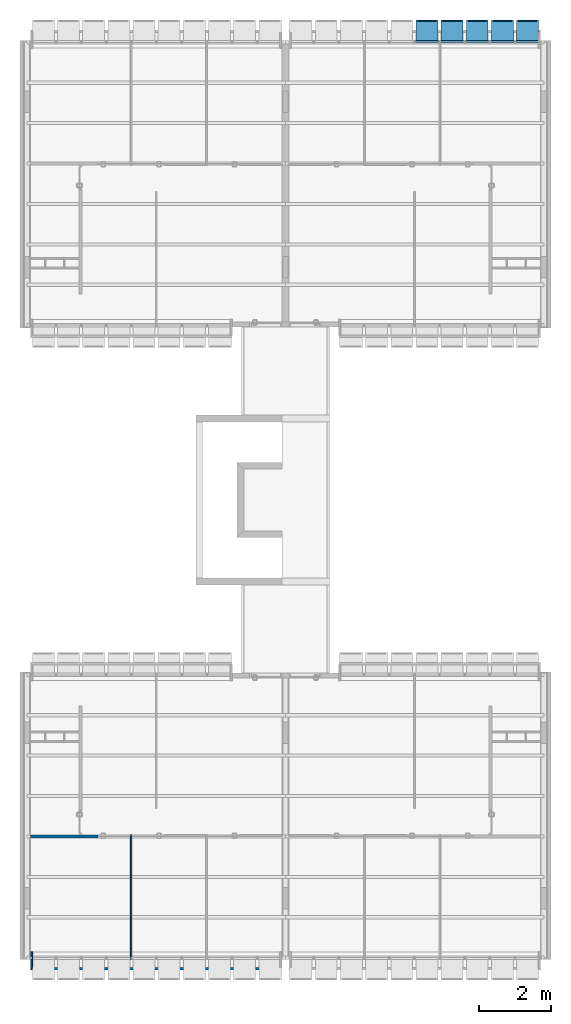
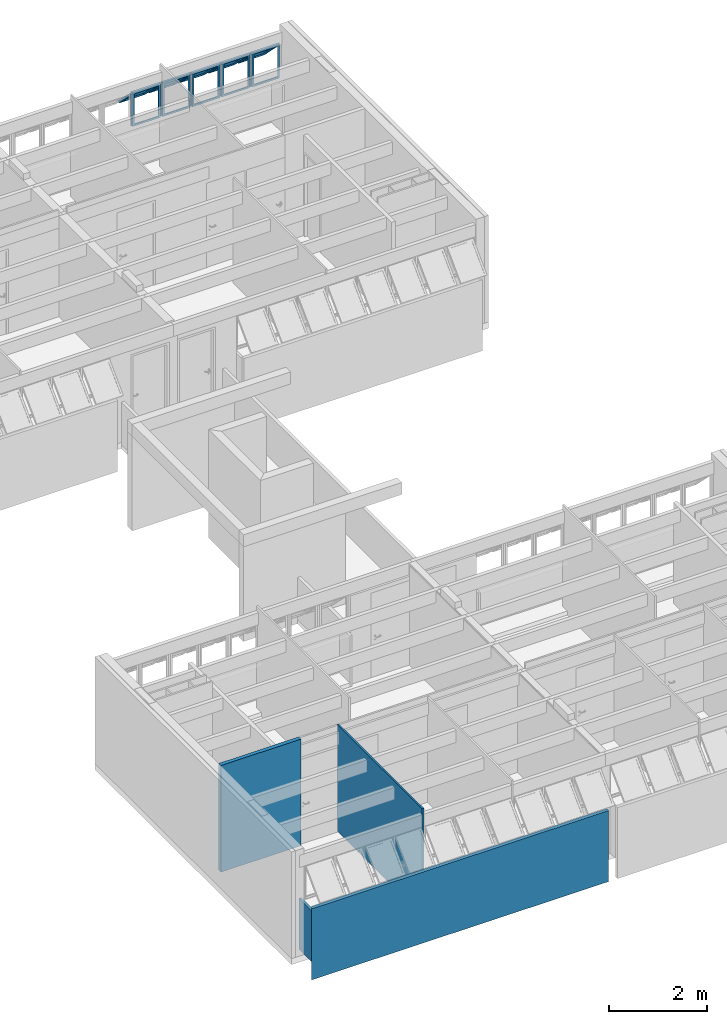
# One storey, part 17 of 40: 5 plates, 4 walls, 1 element without a shape of its own.
"""IFC4 building model written with IfcOpenShell, lengths in millimetres."""

from ifc_helpers import new_model, entity, si_unit, converted_unit, derived_unit, direction, frame, origin_with_axes, place, context, subcontext, project, spatial, line, indexed_curve, outline, extrude, polygons, source, transform, mapped, material, layer, layer_set, layer_usage, constituent, constituent_set, type_object, element, aggregate, save


model = new_model("IFC4")

# Units and contexts
model_context = context("Model", 3, precision=0.01, world=origin_with_axes(), true_north=direction((0.0, 1.0)))
body_context = subcontext(model_context, "Body", "Model", "MODEL_VIEW")
ifc_project = project(units=[si_unit("LENGTHUNIT", "METRE", prefix="MILLI"), si_unit("AREAUNIT", "SQUARE_METRE"), si_unit("VOLUMEUNIT", "CUBIC_METRE"), converted_unit("PLANEANGLEUNIT", "DEGREE", entity("IfcPlaneAngleMeasure", 0.0174532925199), si_unit("PLANEANGLEUNIT", "RADIAN"), dimensions=[0, 0, 0, 0, 0, 0, 0]), converted_unit("TIMEUNIT", "Year", entity("IfcTimeMeasure", 31556926.0), si_unit("TIMEUNIT", "SECOND"), dimensions=[0, 0, 1, 0, 0, 0, 0]), si_unit("MASSUNIT", "GRAM", prefix="KILO"), si_unit("THERMODYNAMICTEMPERATUREUNIT", "DEGREE_CELSIUS"), si_unit("LUMINOUSINTENSITYUNIT", "LUMEN"), si_unit("ENERGYUNIT", "JOULE", prefix="MEGA"), derived_unit("THERMALCONDUCTANCEUNIT", [(si_unit("POWERUNIT", "WATT"), 1), (si_unit("LENGTHUNIT", "METRE"), -1), (si_unit("THERMODYNAMICTEMPERATUREUNIT", "KELVIN"), -1)]), derived_unit("SPECIFICHEATCAPACITYUNIT", [(si_unit("ENERGYUNIT", "JOULE"), 1), (si_unit("MASSUNIT", "GRAM", prefix="KILO"), -1), (si_unit("THERMODYNAMICTEMPERATUREUNIT", "KELVIN"), -1)]), derived_unit("MASSDENSITYUNIT", [(si_unit("MASSUNIT", "GRAM", prefix="KILO"), 1), (si_unit("VOLUMEUNIT", "CUBIC_METRE"), -1)])], contexts=[model_context])

# Site, building, storey
site_placement = place(None, origin_with_axes())
site = spatial("IfcSite", under=ifc_project, at=site_placement, Name="Local", CompositionType="ELEMENT")
building_placement = place(site_placement, origin_with_axes())
building = spatial("IfcBuilding", under=site, at=building_placement, Name="Construção", CompositionType="ELEMENT")
storey_placement = place(building_placement, frame((0.0, 0.0, 5300.0), z_axis=(0.0, 0.0, 1.0), x_axis=(1.0, 0.0, 0.0)))
storey = spatial("IfcBuildingStorey", under=building, at=storey_placement, Name="Terceiro Pavimento", CompositionType="ELEMENT", Elevation=5300.0)

# Window, plates
window_type = type_object("IfcWindowType", Name="Tipo de Parede Cortina", PartitioningType="NOTDEFINED", PredefinedType="NOTDEFINED")
window_placement = place(storey_placement, frame((8520.0, 25844.9790225, 1355.02054151), z_axis=(0.0, 0.0, 1.0), x_axis=(1.0, 0.0, 0.0)))
window = element("IfcWindow", 1, at=window_placement, inside=storey, type_object=window_type, Name="APTO12-JANELA-001", PredefinedType="NOTDEFINED")
ifc_material_1 = material(Name="Alumínio")
ifc_constituent_1 = constituent(ifc_material_1, Name="Alumínio")
ifc_material_2 = material(Name="Vidro")
ifc_constituent_2 = constituent(ifc_material_2, Name="Vidro")
ifc_constituent_set_1 = constituent_set(constituents=[ifc_constituent_1, ifc_constituent_2])
plate_type = type_object("IfcPlateType", Name="Painel Principal 690 x 845 x 20", PredefinedType="CURTAIN_PANEL")
shared_shape_1 = source(origin_with_axes(), body_context, "Body", "Tessellation", [
    polygons([(25.0000036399, 0.0, -40.0), (674.999997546, 0.0, -40.0), (674.999997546, 0.0, -35.0), (25.0000036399, 0.0, -35.0), (70.0000036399, 45.0, -40.0), (629.999997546, 45.0, -40.0), (629.999997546, 45.0, -35.0), (70.0000036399, 45.0, -35.0)], [[[1, 2, 3, 4]], [[1, 5, 6, 2]], [[2, 6, 7, 3]], [[4, 3, 7, 8]], [[5, 1, 4, 8]], [[6, 5, 8, 7]]], closed=True),
    polygons([(674.999997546, 0.0, -40.0), (674.999997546, 844.999891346, -40.0), (674.999997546, 844.999891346, -35.0), (674.999997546, 0.0, -35.0), (629.999997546, 45.0, -40.0), (629.999997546, 799.999891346, -40.0), (629.999997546, 799.999891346, -35.0), (629.999997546, 45.0, -35.0)], [[[1, 2, 3, 4]], [[1, 5, 6, 2]], [[2, 6, 7, 3]], [[4, 3, 7, 8]], [[5, 1, 4, 8]], [[6, 5, 8, 7]]], closed=True),
    polygons([(25.0000036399, 844.999891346, -40.0), (70.0000036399, 799.999891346, -40.0), (70.0000036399, 799.999891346, -35.0), (25.0000036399, 844.999891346, -35.0), (674.999997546, 844.999891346, -40.0), (629.999997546, 799.999891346, -40.0), (629.999997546, 799.999891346, -35.0), (674.999997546, 844.999891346, -35.0)], [[[1, 2, 3, 4]], [[1, 5, 6, 2]], [[2, 6, 7, 3]], [[4, 3, 7, 8]], [[5, 1, 4, 8]], [[6, 5, 8, 7]]], closed=True),
    polygons([(25.0000036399, 0.0, -40.0), (70.0000036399, 45.0, -40.0), (70.0000036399, 45.0, -35.0), (25.0000036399, 0.0, -35.0), (25.0000036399, 844.999891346, -40.0), (70.0000036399, 799.999891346, -40.0), (70.0000036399, 799.999891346, -35.0), (25.0000036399, 844.999891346, -35.0)], [[[1, 2, 3, 4]], [[1, 5, 6, 2]], [[2, 6, 7, 3]], [[4, 3, 7, 8]], [[5, 1, 4, 8]], [[6, 5, 8, 7]]], closed=True),
    polygons([(25.0000036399, 0.0, -35.0), (674.999997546, 0.0, -35.0), (674.999997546, 0.0, 15.0), (25.0000036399, 0.0, 15.0), (45.0000036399, 20.0, -35.0), (654.999997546, 20.0, -35.0), (654.999997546, 20.0, 15.0), (45.0000036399, 20.0, 15.0)], [[[1, 2, 3, 4]], [[1, 5, 6, 2]], [[2, 6, 7, 3]], [[4, 3, 7, 8]], [[5, 1, 4, 8]], [[6, 5, 8, 7]]], closed=True),
    polygons([(674.999997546, 0.0, -35.0), (674.999997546, 844.999891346, -35.0), (674.999997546, 844.999891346, 15.0), (674.999997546, 0.0, 15.0), (654.999997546, 20.0, -35.0), (654.999997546, 824.999891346, -35.0), (654.999997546, 824.999891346, 15.0), (654.999997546, 20.0, 15.0)], [[[1, 2, 3, 4]], [[1, 5, 6, 2]], [[2, 6, 7, 3]], [[4, 3, 7, 8]], [[5, 1, 4, 8]], [[6, 5, 8, 7]]], closed=True),
    polygons([(25.0000036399, 844.999891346, -35.0), (45.0000036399, 824.999891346, -35.0), (45.0000036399, 824.999891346, 15.0), (25.0000036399, 844.999891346, 15.0), (674.999997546, 844.999891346, -35.0), (654.999997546, 824.999891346, -35.0), (654.999997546, 824.999891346, 15.0), (674.999997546, 844.999891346, 15.0)], [[[1, 2, 3, 4]], [[1, 5, 6, 2]], [[2, 6, 7, 3]], [[4, 3, 7, 8]], [[5, 1, 4, 8]], [[6, 5, 8, 7]]], closed=True),
    polygons([(25.0000036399, 0.0, -35.0), (45.0000036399, 20.0, -35.0), (45.0000036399, 20.0, 15.0), (25.0000036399, 0.0, 15.0), (25.0000036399, 844.999891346, -35.0), (45.0000036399, 824.999891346, -35.0), (45.0000036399, 824.999891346, 15.0), (25.0000036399, 844.999891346, 15.0)], [[[1, 2, 3, 4]], [[1, 5, 6, 2]], [[2, 6, 7, 3]], [[4, 3, 7, 8]], [[5, 1, 4, 8]], [[6, 5, 8, 7]]], closed=True),
    polygons([(694.999995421, 0.0, -10.0), (694.999995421, 844.999891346, -10.0), (694.999995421, 844.999891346, 10.0), (694.999995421, 0.0, 10.0), (674.999997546, 0.0, -10.0), (674.999997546, 844.999891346, -10.0), (674.999997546, 844.999891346, 10.0), (674.999997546, 0.0, 10.0)], [[[1, 2, 3, 4]], [[1, 5, 6, 2]], [[2, 6, 7, 3]], [[4, 3, 7, 8]], [[5, 1, 4, 8]], [[6, 5, 8, 7]]], closed=True),
    polygons([(5.00000576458, 844.999891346, -10.0), (5.00000576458, 0.0, -10.0), (5.00000576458, 0.0, 10.0), (5.00000576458, 844.999891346, 10.0), (25.0000036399, 844.999891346, -10.0), (25.0000036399, 0.0, -10.0), (25.0000036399, 0.0, 10.0), (25.0000036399, 844.999891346, 10.0)], [[[1, 2, 3, 4]], [[1, 5, 6, 2]], [[2, 6, 7, 3]], [[4, 3, 7, 8]], [[5, 1, 4, 8]], [[6, 5, 8, 7]]], closed=True),
    polygons([(90.0000036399, 252.243475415, 517.045737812), (90.0000036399, 757.824747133, 11.4644660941), (90.0000036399, 796.715620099, 50.3553390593), (90.0000036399, 291.13434838, 555.936610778), (45.0000036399, 220.423670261, 548.865542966), (45.0000036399, 789.644552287, -20.3553390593), (45.0000036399, 828.535425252, 18.5355339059), (45.0000036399, 259.314543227, 587.756415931)], [[[1, 2, 3, 4]], [[1, 5, 6, 2]], [[2, 6, 7, 3]], [[4, 3, 7, 8]], [[5, 1, 4, 8]], [[6, 5, 8, 7]]], closed=True),
    polygons([(654.999997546, 220.423670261, 548.865542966), (654.999997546, 789.644552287, -20.3553390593), (654.999997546, 828.535425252, 18.5355339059), (654.999997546, 259.314543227, 587.756415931), (609.999997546, 252.243475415, 517.045737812), (609.999997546, 757.824747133, 11.4644660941), (609.999997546, 796.715620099, 50.3553390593), (609.999997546, 291.13434838, 555.936610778)], [[[1, 2, 3, 4]], [[1, 5, 6, 2]], [[2, 6, 7, 3]], [[4, 3, 7, 8]], [[5, 1, 4, 8]], [[6, 5, 8, 7]]], closed=True),
    polygons([(654.999997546, 220.423670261, 548.865542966), (609.999997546, 252.243475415, 517.045737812), (609.999997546, 291.13434838, 555.936610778), (654.999997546, 259.314543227, 587.756415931), (45.0000036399, 220.423670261, 548.865542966), (90.0000036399, 252.243475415, 517.045737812), (90.0000036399, 291.13434838, 555.936610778), (45.0000036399, 259.314543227, 587.756415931)], [[[1, 2, 3, 4]], [[1, 5, 6, 2]], [[2, 6, 7, 3]], [[4, 3, 7, 8]], [[5, 1, 4, 8]], [[6, 5, 8, 7]]], closed=True),
    polygons([(45.0000036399, 789.644552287, -20.3553390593), (90.0000036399, 757.824747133, 11.4644660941), (90.0000036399, 796.715620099, 50.3553390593), (45.0000036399, 828.535425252, 18.5355339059), (654.999997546, 789.644552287, -20.3553390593), (609.999997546, 757.824747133, 11.4644660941), (609.999997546, 796.715620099, 50.3553390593), (654.999997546, 828.535425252, 18.5355339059)], [[[1, 2, 3, 4]], [[1, 5, 6, 2]], [[2, 6, 7, 3]], [[4, 3, 7, 8]], [[5, 1, 4, 8]], [[6, 5, 8, 7]]], closed=True),
    polygons([(90.0000036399, 272.749572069, 537.551834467), (609.999997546, 272.749572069, 537.551834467), (609.999997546, 284.063280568, 548.865542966), (90.0000036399, 284.063280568, 548.865542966), (90.0000036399, 778.330843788, 31.9705627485), (609.999997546, 778.330843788, 31.9705627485), (609.999997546, 789.644552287, 43.2842712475), (90.0000036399, 789.644552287, 43.2842712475)], [[[1, 2, 3, 4]], [[1, 5, 6, 2]], [[2, 6, 7, 3]], [[4, 3, 7, 8]], [[5, 1, 4, 8]], [[6, 5, 8, 7]]], closed=True),
])
plate_1_placement = place(window_placement, frame((3500.0, 0.0, 422.499945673), z_axis=(0.0, 0.0, 1.0), x_axis=(1.0, 0.0, 0.0)))
plate_1 = element("IfcPlate", 2, at=plate_1_placement, type_object=plate_type, material=ifc_constituent_set_1, Name="APTO12-Painel-Prin-013", PredefinedType="CURTAIN_PANEL", context=body_context, shape_type="MappedRepresentation", body=[
    mapped(shared_shape_1, transform((350.0, 0.0, -422.499945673), x_axis=(-1.0, 0.0, 0.0), y_axis=(0.0, 0.0, 1.0), z_axis=(0.0, 1.0, 0.0))),
])
ifc_constituent_3 = constituent(ifc_material_1, Name="Alumínio")
ifc_constituent_4 = constituent(ifc_material_2, Name="Vidro")
ifc_constituent_set_2 = constituent_set(constituents=[ifc_constituent_3, ifc_constituent_4])
shared_shape_2 = source(origin_with_axes(), body_context, "Body", "Tessellation", [
    polygons([(25.0000036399, 0.0, -40.0), (674.999997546, 0.0, -40.0), (674.999997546, 0.0, -35.0), (25.0000036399, 0.0, -35.0), (70.0000036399, 45.0, -40.0), (629.999997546, 45.0, -40.0), (629.999997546, 45.0, -35.0), (70.0000036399, 45.0, -35.0)], [[[1, 2, 3, 4]], [[1, 5, 6, 2]], [[2, 6, 7, 3]], [[4, 3, 7, 8]], [[5, 1, 4, 8]], [[6, 5, 8, 7]]], closed=True),
    polygons([(674.999997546, 0.0, -40.0), (674.999997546, 844.999891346, -40.0), (674.999997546, 844.999891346, -35.0), (674.999997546, 0.0, -35.0), (629.999997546, 45.0, -40.0), (629.999997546, 799.999891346, -40.0), (629.999997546, 799.999891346, -35.0), (629.999997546, 45.0, -35.0)], [[[1, 2, 3, 4]], [[1, 5, 6, 2]], [[2, 6, 7, 3]], [[4, 3, 7, 8]], [[5, 1, 4, 8]], [[6, 5, 8, 7]]], closed=True),
    polygons([(25.0000036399, 844.999891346, -40.0), (70.0000036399, 799.999891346, -40.0), (70.0000036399, 799.999891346, -35.0), (25.0000036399, 844.999891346, -35.0), (674.999997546, 844.999891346, -40.0), (629.999997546, 799.999891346, -40.0), (629.999997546, 799.999891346, -35.0), (674.999997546, 844.999891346, -35.0)], [[[1, 2, 3, 4]], [[1, 5, 6, 2]], [[2, 6, 7, 3]], [[4, 3, 7, 8]], [[5, 1, 4, 8]], [[6, 5, 8, 7]]], closed=True),
    polygons([(25.0000036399, 0.0, -40.0), (70.0000036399, 45.0, -40.0), (70.0000036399, 45.0, -35.0), (25.0000036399, 0.0, -35.0), (25.0000036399, 844.999891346, -40.0), (70.0000036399, 799.999891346, -40.0), (70.0000036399, 799.999891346, -35.0), (25.0000036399, 844.999891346, -35.0)], [[[1, 2, 3, 4]], [[1, 5, 6, 2]], [[2, 6, 7, 3]], [[4, 3, 7, 8]], [[5, 1, 4, 8]], [[6, 5, 8, 7]]], closed=True),
    polygons([(25.0000036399, 0.0, -35.0), (674.999997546, 0.0, -35.0), (674.999997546, 0.0, 15.0), (25.0000036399, 0.0, 15.0), (45.0000036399, 20.0, -35.0), (654.999997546, 20.0, -35.0), (654.999997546, 20.0, 15.0), (45.0000036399, 20.0, 15.0)], [[[1, 2, 3, 4]], [[1, 5, 6, 2]], [[2, 6, 7, 3]], [[4, 3, 7, 8]], [[5, 1, 4, 8]], [[6, 5, 8, 7]]], closed=True),
    polygons([(674.999997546, 0.0, -35.0), (674.999997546, 844.999891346, -35.0), (674.999997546, 844.999891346, 15.0), (674.999997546, 0.0, 15.0), (654.999997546, 20.0, -35.0), (654.999997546, 824.999891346, -35.0), (654.999997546, 824.999891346, 15.0), (654.999997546, 20.0, 15.0)], [[[1, 2, 3, 4]], [[1, 5, 6, 2]], [[2, 6, 7, 3]], [[4, 3, 7, 8]], [[5, 1, 4, 8]], [[6, 5, 8, 7]]], closed=True),
    polygons([(25.0000036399, 844.999891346, -35.0), (45.0000036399, 824.999891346, -35.0), (45.0000036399, 824.999891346, 15.0), (25.0000036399, 844.999891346, 15.0), (674.999997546, 844.999891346, -35.0), (654.999997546, 824.999891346, -35.0), (654.999997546, 824.999891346, 15.0), (674.999997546, 844.999891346, 15.0)], [[[1, 2, 3, 4]], [[1, 5, 6, 2]], [[2, 6, 7, 3]], [[4, 3, 7, 8]], [[5, 1, 4, 8]], [[6, 5, 8, 7]]], closed=True),
    polygons([(25.0000036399, 0.0, -35.0), (45.0000036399, 20.0, -35.0), (45.0000036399, 20.0, 15.0), (25.0000036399, 0.0, 15.0), (25.0000036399, 844.999891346, -35.0), (45.0000036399, 824.999891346, -35.0), (45.0000036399, 824.999891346, 15.0), (25.0000036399, 844.999891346, 15.0)], [[[1, 2, 3, 4]], [[1, 5, 6, 2]], [[2, 6, 7, 3]], [[4, 3, 7, 8]], [[5, 1, 4, 8]], [[6, 5, 8, 7]]], closed=True),
    polygons([(694.999995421, 0.0, -10.0), (694.999995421, 844.999891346, -10.0), (694.999995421, 844.999891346, 10.0), (694.999995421, 0.0, 10.0), (674.999997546, 0.0, -10.0), (674.999997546, 844.999891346, -10.0), (674.999997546, 844.999891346, 10.0), (674.999997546, 0.0, 10.0)], [[[1, 2, 3, 4]], [[1, 5, 6, 2]], [[2, 6, 7, 3]], [[4, 3, 7, 8]], [[5, 1, 4, 8]], [[6, 5, 8, 7]]], closed=True),
    polygons([(5.00000576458, 844.999891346, -10.0), (5.00000576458, 0.0, -10.0), (5.00000576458, 0.0, 10.0), (5.00000576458, 844.999891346, 10.0), (25.0000036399, 844.999891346, -10.0), (25.0000036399, 0.0, -10.0), (25.0000036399, 0.0, 10.0), (25.0000036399, 844.999891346, 10.0)], [[[1, 2, 3, 4]], [[1, 5, 6, 2]], [[2, 6, 7, 3]], [[4, 3, 7, 8]], [[5, 1, 4, 8]], [[6, 5, 8, 7]]], closed=True),
    polygons([(90.0000036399, 252.243475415, 517.045737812), (90.0000036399, 757.824747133, 11.4644660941), (90.0000036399, 796.715620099, 50.3553390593), (90.0000036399, 291.13434838, 555.936610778), (45.0000036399, 220.423670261, 548.865542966), (45.0000036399, 789.644552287, -20.3553390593), (45.0000036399, 828.535425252, 18.5355339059), (45.0000036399, 259.314543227, 587.756415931)], [[[1, 2, 3, 4]], [[1, 5, 6, 2]], [[2, 6, 7, 3]], [[4, 3, 7, 8]], [[5, 1, 4, 8]], [[6, 5, 8, 7]]], closed=True),
    polygons([(654.999997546, 220.423670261, 548.865542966), (654.999997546, 789.644552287, -20.3553390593), (654.999997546, 828.535425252, 18.5355339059), (654.999997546, 259.314543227, 587.756415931), (609.999997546, 252.243475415, 517.045737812), (609.999997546, 757.824747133, 11.4644660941), (609.999997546, 796.715620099, 50.3553390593), (609.999997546, 291.13434838, 555.936610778)], [[[1, 2, 3, 4]], [[1, 5, 6, 2]], [[2, 6, 7, 3]], [[4, 3, 7, 8]], [[5, 1, 4, 8]], [[6, 5, 8, 7]]], closed=True),
    polygons([(654.999997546, 220.423670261, 548.865542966), (609.999997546, 252.243475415, 517.045737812), (609.999997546, 291.13434838, 555.936610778), (654.999997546, 259.314543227, 587.756415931), (45.0000036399, 220.423670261, 548.865542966), (90.0000036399, 252.243475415, 517.045737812), (90.0000036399, 291.13434838, 555.936610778), (45.0000036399, 259.314543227, 587.756415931)], [[[1, 2, 3, 4]], [[1, 5, 6, 2]], [[2, 6, 7, 3]], [[4, 3, 7, 8]], [[5, 1, 4, 8]], [[6, 5, 8, 7]]], closed=True),
    polygons([(45.0000036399, 789.644552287, -20.3553390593), (90.0000036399, 757.824747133, 11.4644660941), (90.0000036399, 796.715620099, 50.3553390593), (45.0000036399, 828.535425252, 18.5355339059), (654.999997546, 789.644552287, -20.3553390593), (609.999997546, 757.824747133, 11.4644660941), (609.999997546, 796.715620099, 50.3553390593), (654.999997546, 828.535425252, 18.5355339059)], [[[1, 2, 3, 4]], [[1, 5, 6, 2]], [[2, 6, 7, 3]], [[4, 3, 7, 8]], [[5, 1, 4, 8]], [[6, 5, 8, 7]]], closed=True),
    polygons([(90.0000036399, 272.749572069, 537.551834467), (609.999997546, 272.749572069, 537.551834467), (609.999997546, 284.063280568, 548.865542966), (90.0000036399, 284.063280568, 548.865542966), (90.0000036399, 778.330843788, 31.9705627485), (609.999997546, 778.330843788, 31.9705627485), (609.999997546, 789.644552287, 43.2842712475), (90.0000036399, 789.644552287, 43.2842712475)], [[[1, 2, 3, 4]], [[1, 5, 6, 2]], [[2, 6, 7, 3]], [[4, 3, 7, 8]], [[5, 1, 4, 8]], [[6, 5, 8, 7]]], closed=True),
])
plate_2_placement = place(window_placement, frame((5600.0, 0.0, 422.499945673), z_axis=(0.0, 0.0, 1.0), x_axis=(1.0, 0.0, 0.0)))
plate_2 = element("IfcPlate", 3, at=plate_2_placement, type_object=plate_type, material=ifc_constituent_set_2, Name="APTO12-Painel-Prin-013", PredefinedType="CURTAIN_PANEL", context=body_context, shape_type="MappedRepresentation", body=[
    mapped(shared_shape_2, transform((350.0, 0.0, -422.499945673), x_axis=(-1.0, 0.0, 0.0), y_axis=(0.0, 0.0, 1.0), z_axis=(0.0, 1.0, 0.0))),
])
ifc_constituent_5 = constituent(ifc_material_1, Name="Alumínio")
ifc_constituent_6 = constituent(ifc_material_2, Name="Vidro")
ifc_constituent_set_3 = constituent_set(constituents=[ifc_constituent_5, ifc_constituent_6])
plate_3_placement = place(window_placement, frame((4900.0, 0.0, 422.499945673), z_axis=(0.0, 0.0, 1.0), x_axis=(1.0, 0.0, 0.0)))
plate_3 = element("IfcPlate", 4, at=plate_3_placement, type_object=plate_type, material=ifc_constituent_set_3, Name="APTO12-Painel-Prin-013", PredefinedType="CURTAIN_PANEL", context=body_context, shape_type="MappedRepresentation", body=[
    mapped(shared_shape_2, transform((350.0, 0.0, -422.499945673), x_axis=(-1.0, 0.0, 0.0), y_axis=(0.0, 0.0, 1.0), z_axis=(0.0, 1.0, 0.0))),
])
ifc_constituent_7 = constituent(ifc_material_1, Name="Alumínio")
ifc_constituent_8 = constituent(ifc_material_2, Name="Vidro")
ifc_constituent_set_4 = constituent_set(constituents=[ifc_constituent_7, ifc_constituent_8])
shared_shape_3 = source(origin_with_axes(), body_context, "Body", "Tessellation", [
    polygons([(25.0000036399, 0.0, -40.0), (674.999997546, 0.0, -40.0), (674.999997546, 0.0, -35.0), (25.0000036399, 0.0, -35.0), (70.0000036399, 45.0, -40.0), (629.999997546, 45.0, -40.0), (629.999997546, 45.0, -35.0), (70.0000036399, 45.0, -35.0)], [[[1, 2, 3, 4]], [[1, 5, 6, 2]], [[2, 6, 7, 3]], [[4, 3, 7, 8]], [[5, 1, 4, 8]], [[6, 5, 8, 7]]], closed=True),
    polygons([(674.999997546, 0.0, -40.0), (674.999997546, 844.999891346, -40.0), (674.999997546, 844.999891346, -35.0), (674.999997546, 0.0, -35.0), (629.999997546, 45.0, -40.0), (629.999997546, 799.999891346, -40.0), (629.999997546, 799.999891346, -35.0), (629.999997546, 45.0, -35.0)], [[[1, 2, 3, 4]], [[1, 5, 6, 2]], [[2, 6, 7, 3]], [[4, 3, 7, 8]], [[5, 1, 4, 8]], [[6, 5, 8, 7]]], closed=True),
    polygons([(25.0000036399, 844.999891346, -40.0), (70.0000036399, 799.999891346, -40.0), (70.0000036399, 799.999891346, -35.0), (25.0000036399, 844.999891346, -35.0), (674.999997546, 844.999891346, -40.0), (629.999997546, 799.999891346, -40.0), (629.999997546, 799.999891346, -35.0), (674.999997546, 844.999891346, -35.0)], [[[1, 2, 3, 4]], [[1, 5, 6, 2]], [[2, 6, 7, 3]], [[4, 3, 7, 8]], [[5, 1, 4, 8]], [[6, 5, 8, 7]]], closed=True),
    polygons([(25.0000036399, 0.0, -40.0), (70.0000036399, 45.0, -40.0), (70.0000036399, 45.0, -35.0), (25.0000036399, 0.0, -35.0), (25.0000036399, 844.999891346, -40.0), (70.0000036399, 799.999891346, -40.0), (70.0000036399, 799.999891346, -35.0), (25.0000036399, 844.999891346, -35.0)], [[[1, 2, 3, 4]], [[1, 5, 6, 2]], [[2, 6, 7, 3]], [[4, 3, 7, 8]], [[5, 1, 4, 8]], [[6, 5, 8, 7]]], closed=True),
    polygons([(25.0000036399, 0.0, -35.0), (674.999997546, 0.0, -35.0), (674.999997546, 0.0, 15.0), (25.0000036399, 0.0, 15.0), (45.0000036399, 20.0, -35.0), (654.999997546, 20.0, -35.0), (654.999997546, 20.0, 15.0), (45.0000036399, 20.0, 15.0)], [[[1, 2, 3, 4]], [[1, 5, 6, 2]], [[2, 6, 7, 3]], [[4, 3, 7, 8]], [[5, 1, 4, 8]], [[6, 5, 8, 7]]], closed=True),
    polygons([(674.999997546, 0.0, -35.0), (674.999997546, 844.999891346, -35.0), (674.999997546, 844.999891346, 15.0), (674.999997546, 0.0, 15.0), (654.999997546, 20.0, -35.0), (654.999997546, 824.999891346, -35.0), (654.999997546, 824.999891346, 15.0), (654.999997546, 20.0, 15.0)], [[[1, 2, 3, 4]], [[1, 5, 6, 2]], [[2, 6, 7, 3]], [[4, 3, 7, 8]], [[5, 1, 4, 8]], [[6, 5, 8, 7]]], closed=True),
    polygons([(25.0000036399, 844.999891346, -35.0), (45.0000036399, 824.999891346, -35.0), (45.0000036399, 824.999891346, 15.0), (25.0000036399, 844.999891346, 15.0), (674.999997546, 844.999891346, -35.0), (654.999997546, 824.999891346, -35.0), (654.999997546, 824.999891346, 15.0), (674.999997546, 844.999891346, 15.0)], [[[1, 2, 3, 4]], [[1, 5, 6, 2]], [[2, 6, 7, 3]], [[4, 3, 7, 8]], [[5, 1, 4, 8]], [[6, 5, 8, 7]]], closed=True),
    polygons([(25.0000036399, 0.0, -35.0), (45.0000036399, 20.0, -35.0), (45.0000036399, 20.0, 15.0), (25.0000036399, 0.0, 15.0), (25.0000036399, 844.999891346, -35.0), (45.0000036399, 824.999891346, -35.0), (45.0000036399, 824.999891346, 15.0), (25.0000036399, 844.999891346, 15.0)], [[[1, 2, 3, 4]], [[1, 5, 6, 2]], [[2, 6, 7, 3]], [[4, 3, 7, 8]], [[5, 1, 4, 8]], [[6, 5, 8, 7]]], closed=True),
    polygons([(694.999995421, 0.0, -10.0), (694.999995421, 844.999891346, -10.0), (694.999995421, 844.999891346, 10.0), (694.999995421, 0.0, 10.0), (674.999997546, 0.0, -10.0), (674.999997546, 844.999891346, -10.0), (674.999997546, 844.999891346, 10.0), (674.999997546, 0.0, 10.0)], [[[1, 2, 3, 4]], [[1, 5, 6, 2]], [[2, 6, 7, 3]], [[4, 3, 7, 8]], [[5, 1, 4, 8]], [[6, 5, 8, 7]]], closed=True),
    polygons([(5.00000576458, 844.999891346, -10.0), (5.00000576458, 0.0, -10.0), (5.00000576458, 0.0, 10.0), (5.00000576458, 844.999891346, 10.0), (25.0000036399, 844.999891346, -10.0), (25.0000036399, 0.0, -10.0), (25.0000036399, 0.0, 10.0), (25.0000036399, 844.999891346, 10.0)], [[[1, 2, 3, 4]], [[1, 5, 6, 2]], [[2, 6, 7, 3]], [[4, 3, 7, 8]], [[5, 1, 4, 8]], [[6, 5, 8, 7]]], closed=True),
    polygons([(90.0000036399, 252.243475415, 517.045737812), (90.0000036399, 757.824747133, 11.4644660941), (90.0000036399, 796.715620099, 50.3553390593), (90.0000036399, 291.13434838, 555.936610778), (45.0000036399, 220.423670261, 548.865542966), (45.0000036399, 789.644552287, -20.3553390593), (45.0000036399, 828.535425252, 18.5355339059), (45.0000036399, 259.314543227, 587.756415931)], [[[1, 2, 3, 4]], [[1, 5, 6, 2]], [[2, 6, 7, 3]], [[4, 3, 7, 8]], [[5, 1, 4, 8]], [[6, 5, 8, 7]]], closed=True),
    polygons([(654.999997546, 220.423670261, 548.865542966), (654.999997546, 789.644552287, -20.3553390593), (654.999997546, 828.535425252, 18.5355339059), (654.999997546, 259.314543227, 587.756415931), (609.999997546, 252.243475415, 517.045737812), (609.999997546, 757.824747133, 11.4644660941), (609.999997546, 796.715620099, 50.3553390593), (609.999997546, 291.13434838, 555.936610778)], [[[1, 2, 3, 4]], [[1, 5, 6, 2]], [[2, 6, 7, 3]], [[4, 3, 7, 8]], [[5, 1, 4, 8]], [[6, 5, 8, 7]]], closed=True),
    polygons([(654.999997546, 220.423670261, 548.865542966), (609.999997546, 252.243475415, 517.045737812), (609.999997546, 291.13434838, 555.936610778), (654.999997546, 259.314543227, 587.756415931), (45.0000036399, 220.423670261, 548.865542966), (90.0000036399, 252.243475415, 517.045737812), (90.0000036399, 291.13434838, 555.936610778), (45.0000036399, 259.314543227, 587.756415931)], [[[1, 2, 3, 4]], [[1, 5, 6, 2]], [[2, 6, 7, 3]], [[4, 3, 7, 8]], [[5, 1, 4, 8]], [[6, 5, 8, 7]]], closed=True),
    polygons([(45.0000036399, 789.644552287, -20.3553390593), (90.0000036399, 757.824747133, 11.4644660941), (90.0000036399, 796.715620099, 50.3553390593), (45.0000036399, 828.535425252, 18.5355339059), (654.999997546, 789.644552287, -20.3553390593), (609.999997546, 757.824747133, 11.4644660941), (609.999997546, 796.715620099, 50.3553390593), (654.999997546, 828.535425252, 18.5355339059)], [[[1, 2, 3, 4]], [[1, 5, 6, 2]], [[2, 6, 7, 3]], [[4, 3, 7, 8]], [[5, 1, 4, 8]], [[6, 5, 8, 7]]], closed=True),
    polygons([(90.0000036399, 272.749572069, 537.551834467), (609.999997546, 272.749572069, 537.551834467), (609.999997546, 284.063280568, 548.865542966), (90.0000036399, 284.063280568, 548.865542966), (90.0000036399, 778.330843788, 31.9705627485), (609.999997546, 778.330843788, 31.9705627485), (609.999997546, 789.644552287, 43.2842712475), (90.0000036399, 789.644552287, 43.2842712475)], [[[1, 2, 3, 4]], [[1, 5, 6, 2]], [[2, 6, 7, 3]], [[4, 3, 7, 8]], [[5, 1, 4, 8]], [[6, 5, 8, 7]]], closed=True),
])
plate_4_placement = place(window_placement, frame((2800.0, 0.0, 422.499945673), z_axis=(0.0, 0.0, 1.0), x_axis=(1.0, 0.0, 0.0)))
plate_4 = element("IfcPlate", 5, at=plate_4_placement, type_object=plate_type, material=ifc_constituent_set_4, Name="APTO12-Painel-Prin-013", PredefinedType="CURTAIN_PANEL", context=body_context, shape_type="MappedRepresentation", body=[
    mapped(shared_shape_3, transform((350.0, 0.0, -422.499945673), x_axis=(-1.0, 0.0, 0.0), y_axis=(0.0, 0.0, 1.0), z_axis=(0.0, 1.0, 0.0))),
])
ifc_constituent_9 = constituent(ifc_material_1, Name="Alumínio")
ifc_constituent_10 = constituent(ifc_material_2, Name="Vidro")
ifc_constituent_set_5 = constituent_set(constituents=[ifc_constituent_9, ifc_constituent_10])
plate_5_placement = place(window_placement, frame((4200.0, 0.0, 422.499945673), z_axis=(0.0, 0.0, 1.0), x_axis=(1.0, 0.0, 0.0)))
plate_5 = element("IfcPlate", 6, at=plate_5_placement, type_object=plate_type, material=ifc_constituent_set_5, Name="APTO12-Painel-Prin-013", PredefinedType="CURTAIN_PANEL", context=body_context, shape_type="MappedRepresentation", body=[
    mapped(shared_shape_3, transform((350.0, 0.0, -422.499945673), x_axis=(-1.0, 0.0, 0.0), y_axis=(0.0, 0.0, 1.0), z_axis=(0.0, 1.0, 0.0))),
])
aggregate(window, [plate_2, plate_3, plate_4, plate_5, plate_1])

# Walls
ifc_material_3 = material(Name="GENÉRICO - VEDAÇÃO EXTERNA")
ifc_layer_1 = layer(ifc_material_3, 40.0, ventilated="UNKNOWN", Name="GENÉRICO - VEDAÇÃO EXTERNA")
ifc_layer_set_1 = layer_set([ifc_layer_1], Name="GENÉRICO - VEDAÇÃO EXTERNA 40")
ifc_layer_usage_1 = layer_usage(ifc_layer_set_1, "AXIS2", "NEGATIVE", 0.0)
wall_type_1 = type_object("IfcWallType", Name="GENÉRICO - VEDAÇÃO EXTERNA 40", PredefinedType="NOTDEFINED")
wall_1_placement = place(storey_placement, frame((3110.0, 3765.0, 0.0), z_axis=(0.0, 0.0, 1.0), x_axis=(0.0, -1.0, 0.0)))
element("IfcWall", 7, at=wall_1_placement, inside=storey, type_object=wall_type_1, material=ifc_layer_usage_1, Name="APTO9-PAREDE-007", PredefinedType="NOTDEFINED", context=body_context, shape_type="SweptSolid", body=[
    extrude(outline(indexed_curve([(0.0, -40.0), (3465.0, -40.0), (3465.0, 0.0), (0.0, 0.0)], segments=[line(1, 2, 3, 4, 1)])), origin_with_axes(), (0.0, 0.0, 1.0), 2650.0),
])
ifc_layer_2 = layer(ifc_material_3, 90.0, ventilated="UNKNOWN", Name="GENÉRICO - VEDAÇÃO EXTERNA")
ifc_layer_set_2 = layer_set([ifc_layer_2], Name="GENÉRICO - VEDAÇÃO EXTERNA 90")
ifc_layer_usage_2 = layer_usage(ifc_layer_set_2, "AXIS2", "NEGATIVE", 0.0)
wall_type_2 = type_object("IfcWallType", Name="GENÉRICO - VEDAÇÃO EXTERNA 90", PredefinedType="NOTDEFINED")
wall_2_placement = place(storey_placement, frame((290.0, 3765.2195667, 0.0), z_axis=(0.0, 0.0, 1.0), x_axis=(1.0, 0.0, 0.0)))
element("IfcWall", 8, at=wall_2_placement, inside=storey, type_object=wall_type_2, material=ifc_layer_usage_2, Name="APTO9-PAREDE-019", PredefinedType="NOTDEFINED", context=body_context, shape_type="SweptSolid", body=[
    extrude(outline(indexed_curve([(0.0, -90.0), (1879.99807021, -90.0), (1880.0, 0.0), (0.0, 0.0)], segments=[line(1, 2, 3, 4, 1)])), origin_with_axes(), (0.0, 0.0, 1.0), 2650.0),
])
ifc_material_4 = material(Name="Concreto Armado Moldado in Loco - Estrutural")
ifc_layer_3 = layer(ifc_material_4, 50.0, ventilated="UNKNOWN", Name="Concreto Armado Moldado in Loco - Estrutural")
ifc_layer_set_3 = layer_set([ifc_layer_3], Name="Concreto Armado Moldado in Loco - Estrutural 50")
ifc_layer_usage_3 = layer_usage(ifc_layer_set_3, "AXIS2", "NEGATIVE", 50.0)
wall_type_3 = type_object("IfcWallType", Name="Concreto Armado Moldado in Loco - Estrutural 50", PredefinedType="NOTDEFINED")
wall_3_placement = place(storey_placement, frame((300.0, 510.0, 0.0), z_axis=(0.0, 0.0, 1.0), x_axis=(0.0, -1.0, 0.0)))
element("IfcWall", 9, at=wall_3_placement, inside=storey, type_object=wall_type_3, material=ifc_layer_usage_3, Name="APTO9-PAREDE-002", PredefinedType="NOTDEFINED", context=body_context, shape_type="SweptSolid", body=[
    extrude(outline(indexed_curve([(0.0, 0.0), (510.0, 0.0), (430.0, 50.0), (0.0, 50.0)], segments=[line(1, 2, 3, 4, 1)])), origin_with_axes(), (0.0, 0.0, 1.0), 1270.0),
])
ifc_layer_4 = layer(ifc_material_4, 80.0, ventilated="UNKNOWN", Name="Concreto Armado Moldado in Loco - Estrutural")
ifc_layer_set_4 = layer_set([ifc_layer_4], Name="Concreto Armado Moldado in Loco - Estrutural 80")
ifc_layer_usage_4 = layer_usage(ifc_layer_set_4, "AXIS2", "POSITIVE", -80.0)
wall_type_4 = type_object("IfcWallType", Name="Concreto Armado Moldado in Loco - Estrutural 80", PredefinedType="NOTDEFINED")
wall_4_placement = place(storey_placement, frame((300.0, 80.0, -450.0), z_axis=(0.0, 0.0, 1.0), x_axis=(1.0, 0.0, 0.0)))
element("IfcWall", 10, at=wall_4_placement, inside=storey, type_object=wall_type_4, material=ifc_layer_usage_4, Name="APTO9-PAREDE-015", PredefinedType="NOTDEFINED", context=body_context, shape_type="SweptSolid", body=[
    extrude(outline(indexed_curve([(0.0, -80.0), (6980.0, -80.0), (6980.0, 0.0), (50.0, 0.0)], segments=[line(1, 2, 3, 4, 1)])), origin_with_axes(), (0.0, 0.0, 1.0), 1765.0),
])

save(model, "model.ifc")
